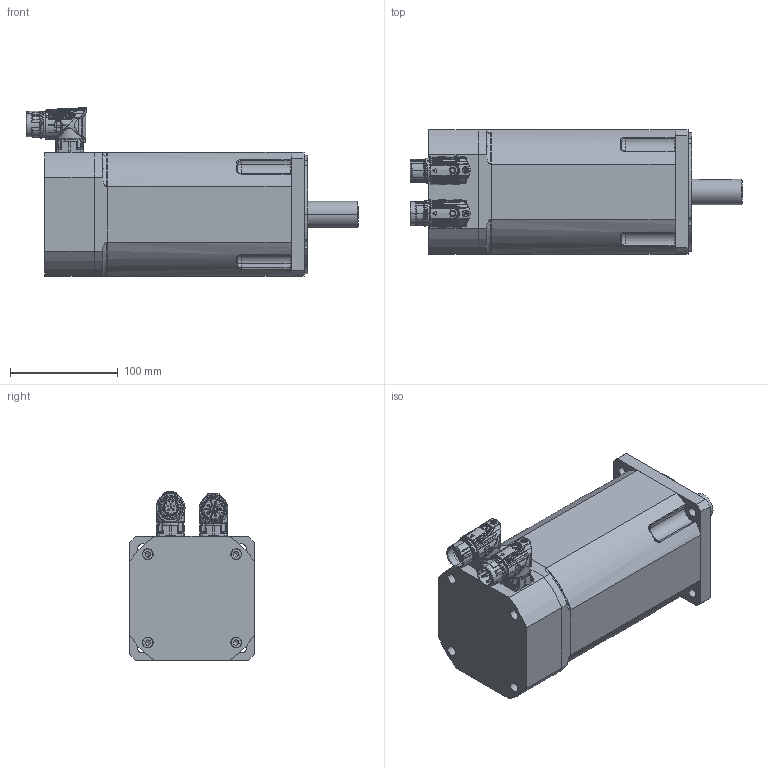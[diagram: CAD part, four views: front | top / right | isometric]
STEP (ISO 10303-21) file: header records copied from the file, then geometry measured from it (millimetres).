
FILE_DESCRIPTION(('CATIA V5 STEP Exchange'),'2;1');
FILE_NAME('C:\Documents and Settings\max\Documenti\sangallimotori\3d step\tg4\motore_DSM5_43.stp','2010-12-12T18:34:49+00:00',('none'),('none'),'CATIA Version 5 Release 10 (IN-8)','CATIA V5 STEP AP203',' none');
FILE_SCHEMA(('CONFIG_CONTROL_DESIGN'));
Assembly tree (27 placements, depth 0):
Bounding box: 307.81 x 115 x 156.43 mm (x, y, z)
Volume: 2873501 mm3; surface area: 236421.3 mm2
Topology: 23 solids, 28 shells, 4113 faces, 13945 edges, 9848 vertices
Faces by surface type: cylinder 1492, bspline 1326, plane 593, torus 360, cone 233, sphere 109
Entity records: 254620 total; most frequent: CARTESIAN_POINT 164650, ORIENTED_EDGE 25470, EDGE_CURVE 12792, VERTEX_POINT 9198, DIRECTION 8767, B_SPLINE_CURVE_WITH_KNOTS 7914, AXIS2_PLACEMENT_3D 4390, EDGE_LOOP 3819
